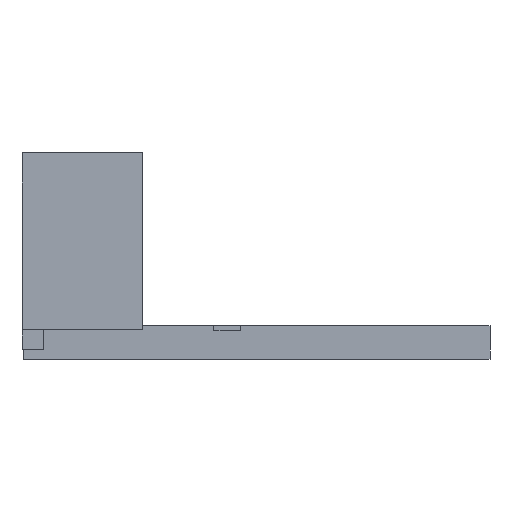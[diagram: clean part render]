
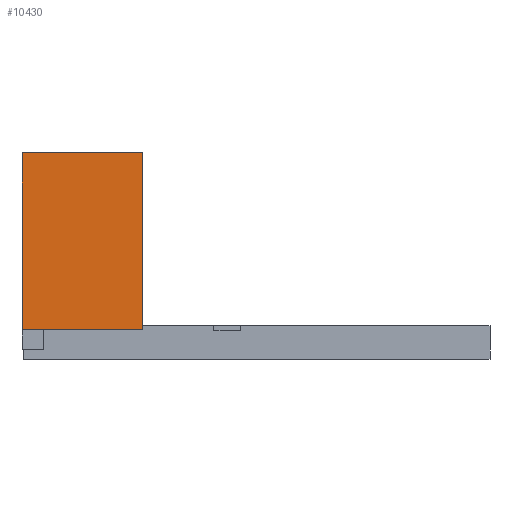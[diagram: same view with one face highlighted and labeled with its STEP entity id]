
A CAD part, front view. The second image highlights one B-rep face of the part: STEP entity #10430.
In plain terms, the highlighted planar face has unit normal (0, -1, 0).
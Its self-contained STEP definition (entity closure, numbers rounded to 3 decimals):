
#9101 = PLANE('',#9102);
#9102 = AXIS2_PLACEMENT_3D('',#9103,#9104,#9105);
#9103 = CARTESIAN_POINT('',(-16.062,-10.65,4.15));
#9104 = DIRECTION('',(0.,0.,-1.));
#9105 = DIRECTION('',(-0.,-1.,0.));
#9396 = PLANE('',#9397);
#9397 = AXIS2_PLACEMENT_3D('',#9398,#9399,#9400);
#9398 = CARTESIAN_POINT('',(-33.062,-6.35,26.15));
#9399 = DIRECTION('',(-1.,-0.,0.));
#9400 = DIRECTION('',(-0.,-1.,0.));
#9869 = VERTEX_POINT('',#9870);
#9870 = CARTESIAN_POINT('',(-33.062,-10.65,4.15));
#9891 = EDGE_CURVE('',#9892,#9869,#9894,.T.);
#9892 = VERTEX_POINT('',#9893);
#9893 = CARTESIAN_POINT('',(-16.062,-10.65,4.15));
#9894 = SURFACE_CURVE('',#9895,(#9899,#9906),.PCURVE_S1.);
#9895 = LINE('',#9896,#9897);
#9896 = CARTESIAN_POINT('',(-16.062,-10.65,4.15));
#9897 = VECTOR('',#9898,1.);
#9898 = DIRECTION('',(-1.,-0.,0.));
#9899 = PCURVE('',#9101,#9900);
#9900 = DEFINITIONAL_REPRESENTATION('',(#9901),#9905);
#9901 = LINE('',#9902,#9903);
#9902 = CARTESIAN_POINT('',(-0.,0.));
#9903 = VECTOR('',#9904,1.);
#9904 = DIRECTION('',(-0.,1.));
#9905 = ( GEOMETRIC_REPRESENTATION_CONTEXT(2) 
PARAMETRIC_REPRESENTATION_CONTEXT() REPRESENTATION_CONTEXT('2D SPACE',''
  ) );
#9906 = PCURVE('',#9907,#9912);
#9907 = PLANE('',#9908);
#9908 = AXIS2_PLACEMENT_3D('',#9909,#9910,#9911);
#9909 = CARTESIAN_POINT('',(-16.062,-10.65,29.15));
#9910 = DIRECTION('',(0.,1.,0.));
#9911 = DIRECTION('',(1.,0.,-0.));
#9912 = DEFINITIONAL_REPRESENTATION('',(#9913),#9917);
#9913 = LINE('',#9914,#9915);
#9914 = CARTESIAN_POINT('',(0.,25.));
#9915 = VECTOR('',#9916,1.);
#9916 = DIRECTION('',(-1.,-0.));
#9917 = ( GEOMETRIC_REPRESENTATION_CONTEXT(2) 
PARAMETRIC_REPRESENTATION_CONTEXT() REPRESENTATION_CONTEXT('2D SPACE',''
  ) );
#9935 = PLANE('',#9936);
#9936 = AXIS2_PLACEMENT_3D('',#9937,#9938,#9939);
#9937 = CARTESIAN_POINT('',(-16.062,-10.65,29.15));
#9938 = DIRECTION('',(-1.,-0.,0.));
#9939 = DIRECTION('',(-0.,-1.,0.));
#10046 = EDGE_CURVE('',#10047,#9869,#10049,.T.);
#10047 = VERTEX_POINT('',#10048);
#10048 = CARTESIAN_POINT('',(-33.062,-10.65,29.15));
#10049 = SURFACE_CURVE('',#10050,(#10054,#10061),.PCURVE_S1.);
#10050 = LINE('',#10051,#10052);
#10051 = CARTESIAN_POINT('',(-33.062,-10.65,29.15));
#10052 = VECTOR('',#10053,1.);
#10053 = DIRECTION('',(0.,0.,-1.));
#10054 = PCURVE('',#9396,#10055);
#10055 = DEFINITIONAL_REPRESENTATION('',(#10056),#10060);
#10056 = LINE('',#10057,#10058);
#10057 = CARTESIAN_POINT('',(4.3,3.));
#10058 = VECTOR('',#10059,1.);
#10059 = DIRECTION('',(-0.,-1.));
#10060 = ( GEOMETRIC_REPRESENTATION_CONTEXT(2) 
PARAMETRIC_REPRESENTATION_CONTEXT() REPRESENTATION_CONTEXT('2D SPACE',''
  ) );
#10061 = PCURVE('',#9907,#10062);
#10062 = DEFINITIONAL_REPRESENTATION('',(#10063),#10067);
#10063 = LINE('',#10064,#10065);
#10064 = CARTESIAN_POINT('',(-17.,0.));
#10065 = VECTOR('',#10066,1.);
#10066 = DIRECTION('',(0.,1.));
#10067 = ( GEOMETRIC_REPRESENTATION_CONTEXT(2) 
PARAMETRIC_REPRESENTATION_CONTEXT() REPRESENTATION_CONTEXT('2D SPACE',''
  ) );
#10142 = PLANE('',#10143);
#10143 = AXIS2_PLACEMENT_3D('',#10144,#10145,#10146);
#10144 = CARTESIAN_POINT('',(-16.062,-10.65,29.15));
#10145 = DIRECTION('',(0.,0.,-1.));
#10146 = DIRECTION('',(-0.,-1.,0.));
#10339 = EDGE_CURVE('',#10340,#9892,#10342,.T.);
#10340 = VERTEX_POINT('',#10341);
#10341 = CARTESIAN_POINT('',(-16.062,-10.65,29.15));
#10342 = SURFACE_CURVE('',#10343,(#10347,#10354),.PCURVE_S1.);
#10343 = LINE('',#10344,#10345);
#10344 = CARTESIAN_POINT('',(-16.062,-10.65,29.15));
#10345 = VECTOR('',#10346,1.);
#10346 = DIRECTION('',(0.,0.,-1.));
#10347 = PCURVE('',#9935,#10348);
#10348 = DEFINITIONAL_REPRESENTATION('',(#10349),#10353);
#10349 = LINE('',#10350,#10351);
#10350 = CARTESIAN_POINT('',(-0.,0.));
#10351 = VECTOR('',#10352,1.);
#10352 = DIRECTION('',(-0.,-1.));
#10353 = ( GEOMETRIC_REPRESENTATION_CONTEXT(2) 
PARAMETRIC_REPRESENTATION_CONTEXT() REPRESENTATION_CONTEXT('2D SPACE',''
  ) );
#10354 = PCURVE('',#9907,#10355);
#10355 = DEFINITIONAL_REPRESENTATION('',(#10356),#10360);
#10356 = LINE('',#10357,#10358);
#10357 = CARTESIAN_POINT('',(-0.,0.));
#10358 = VECTOR('',#10359,1.);
#10359 = DIRECTION('',(0.,1.));
#10360 = ( GEOMETRIC_REPRESENTATION_CONTEXT(2) 
PARAMETRIC_REPRESENTATION_CONTEXT() REPRESENTATION_CONTEXT('2D SPACE',''
  ) );
#10430 = ADVANCED_FACE('',(#10431),#9907,.F.);
#10431 = FACE_BOUND('',#10432,.T.);
#10432 = EDGE_LOOP('',(#10433,#10434,#10455,#10456));
#10433 = ORIENTED_EDGE('',*,*,#10339,.F.);
#10434 = ORIENTED_EDGE('',*,*,#10435,.T.);
#10435 = EDGE_CURVE('',#10340,#10047,#10436,.T.);
#10436 = SURFACE_CURVE('',#10437,(#10441,#10448),.PCURVE_S1.);
#10437 = LINE('',#10438,#10439);
#10438 = CARTESIAN_POINT('',(-16.062,-10.65,29.15));
#10439 = VECTOR('',#10440,1.);
#10440 = DIRECTION('',(-1.,-0.,0.));
#10441 = PCURVE('',#9907,#10442);
#10442 = DEFINITIONAL_REPRESENTATION('',(#10443),#10447);
#10443 = LINE('',#10444,#10445);
#10444 = CARTESIAN_POINT('',(-0.,0.));
#10445 = VECTOR('',#10446,1.);
#10446 = DIRECTION('',(-1.,-0.));
#10447 = ( GEOMETRIC_REPRESENTATION_CONTEXT(2) 
PARAMETRIC_REPRESENTATION_CONTEXT() REPRESENTATION_CONTEXT('2D SPACE',''
  ) );
#10448 = PCURVE('',#10142,#10449);
#10449 = DEFINITIONAL_REPRESENTATION('',(#10450),#10454);
#10450 = LINE('',#10451,#10452);
#10451 = CARTESIAN_POINT('',(-0.,0.));
#10452 = VECTOR('',#10453,1.);
#10453 = DIRECTION('',(-0.,1.));
#10454 = ( GEOMETRIC_REPRESENTATION_CONTEXT(2) 
PARAMETRIC_REPRESENTATION_CONTEXT() REPRESENTATION_CONTEXT('2D SPACE',''
  ) );
#10455 = ORIENTED_EDGE('',*,*,#10046,.T.);
#10456 = ORIENTED_EDGE('',*,*,#9891,.F.);
